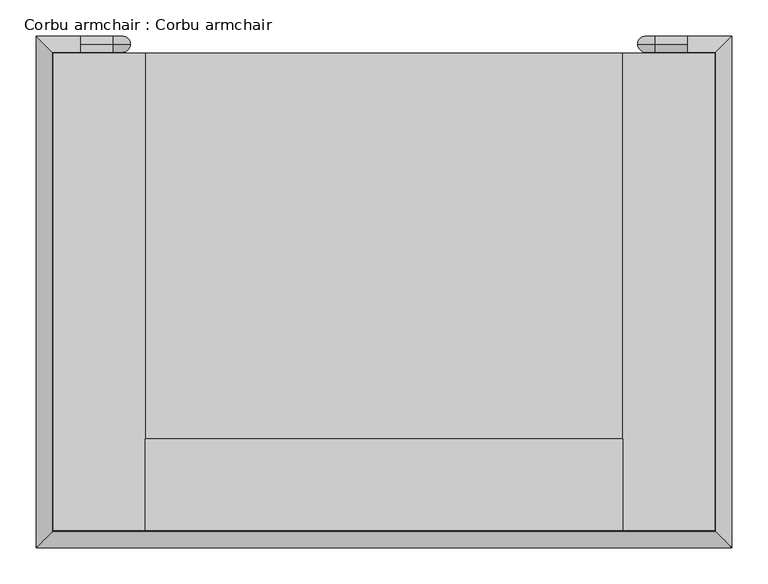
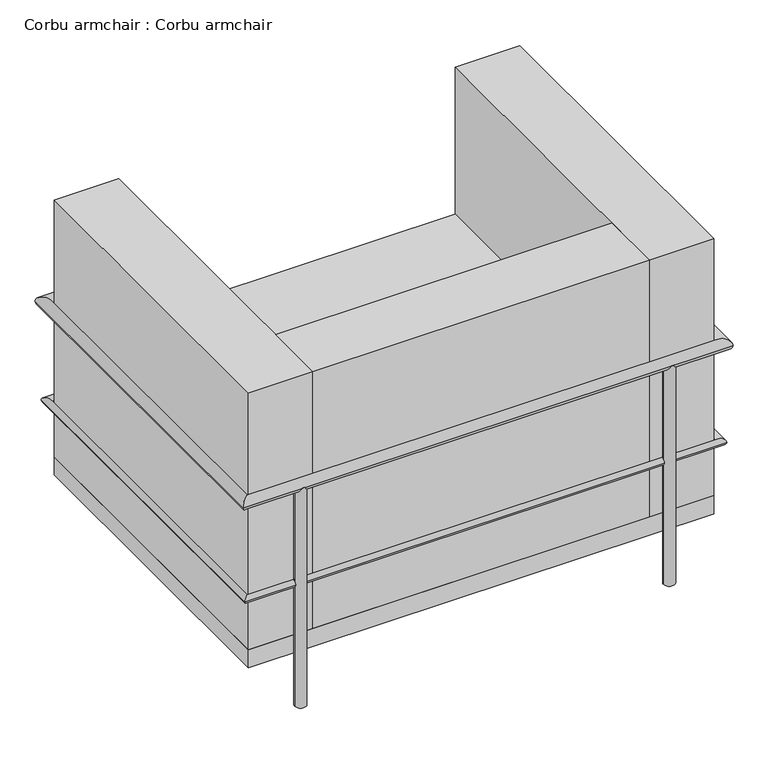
"""IFC4 building model written with IfcOpenShell, lengths in millimetres: furniture geometry, Corbu armchair : Corbu armchair."""

import ifcopenshell
import ifcopenshell.guid

model = None  # the IFC model being written
_history = None  # IfcOwnerHistory: only IFC2X3 demands one
_inside = {}  # id of a spatial element -> (the spatial element, [elements in it])
_under = {}  # id of a project, library or spatial element -> (it, [spatial elements below it])
_declared = {}  # id of a project -> (the project, [libraries it declares])
_typed = {}  # id of a type object -> (the type object, [elements of that type])
_made_of = {}  # id of a material, layer set ... -> (it, [elements and type objects made of it])


def new_model(schema):
    """Start an empty IFC model of exactly this schema.

    Asked for "IFC4X3", IfcOpenShell would pick the latest addendum, in which some entities
    have other attributes; the version numbers below select the first issue.
    IFC2X3 requires an IfcOwnerHistory on every rooted entity: one is made here for all.
    """
    global model, _history
    if schema == "IFC4X3":
        model = ifcopenshell.file(schema_version=(4, 3, 0, 0))
    else:
        model = ifcopenshell.file(schema=schema)
    _inside.clear()
    _under.clear()
    _declared.clear()
    _typed.clear()
    _made_of.clear()
    _history = None
    if model.schema == "IFC2X3":
        org = make("IfcOrganization", Name="unknown")
        user = make(
            "IfcPersonAndOrganization",
            ThePerson=make("IfcPerson", FamilyName="unknown"),
            TheOrganization=org,
        )
        app = make(
            "IfcApplication",
            ApplicationDeveloper=org,
            Version="unknown",
            ApplicationFullName="unknown",
            ApplicationIdentifier="unknown",
        )
        _history = make(
            "IfcOwnerHistory",
            OwningUser=user,
            OwningApplication=app,
            ChangeAction="ADDED",
            CreationDate=0,
        )
    return model


def make(cls, **values):
    """One entity of the class cls with the attributes given. An attribute that is None is left unset."""
    return model.create_entity(
        cls, **{name: value for name, value in values.items() if value is not None}
    )


def rooted(cls, **values):
    """An entity with a GlobalId (a new one), such as an element, a storey or a relation."""
    return make(cls, GlobalId=ifcopenshell.guid.new(), OwnerHistory=_history, **values)


def si_unit(unit_type, name, prefix=None):
    """IfcSIUnit, for example si_unit("LENGTHUNIT", "METRE", prefix="MILLI")."""
    return make("IfcSIUnit", UnitType=unit_type, Prefix=prefix, Name=name)


def assignment(units):
    """IfcUnitAssignment: the units of a project."""
    return None if units is None else make("IfcUnitAssignment", Units=units)


def point(xyz):
    """IfcCartesianPoint."""
    return None if xyz is None else make("IfcCartesianPoint", Coordinates=xyz)


def direction(xyz):
    """IfcDirection."""
    return None if xyz is None else make("IfcDirection", DirectionRatios=xyz)


def frame(location, z_axis=None, x_axis=None):
    """IfcAxis2Placement3D, a coordinate frame: its origin and axes. An axis left out is left unset."""
    return make(
        "IfcAxis2Placement3D",
        Location=point(location),
        Axis=direction(z_axis),
        RefDirection=direction(x_axis),
    )


def frame_2d(location, x_axis=None):
    """IfcAxis2Placement2D, a coordinate frame in the plane: its origin and x axis."""
    return make(
        "IfcAxis2Placement2D", Location=point(location), RefDirection=direction(x_axis)
    )


def origin():
    """The frame at (0, 0, 0) with its axes left unset."""
    return frame((0.0, 0.0, 0.0))


def origin_with_axes():
    """The frame at (0, 0, 0) with the z axis (0, 0, 1) and the x axis (1, 0, 0) written out."""
    return frame((0.0, 0.0, 0.0), z_axis=(0.0, 0.0, 1.0), x_axis=(1.0, 0.0, 0.0))


def place(relative_to, where):
    """IfcLocalPlacement: puts the frame where relative to a parent placement (None: the world)."""
    return make(
        "IfcLocalPlacement", PlacementRelTo=relative_to, RelativePlacement=where
    )


def context(
    kind, dimensions, precision=None, world=None, true_north=None, identifier=None
):
    """IfcGeometricRepresentationContext, for example the 3D "Model" context."""
    return make(
        "IfcGeometricRepresentationContext",
        ContextIdentifier=identifier,
        ContextType=kind,
        CoordinateSpaceDimension=dimensions,
        Precision=precision,
        WorldCoordinateSystem=world,
        TrueNorth=true_north,
    )


def project(units=None, contexts=None):
    """IfcProject with its units and contexts."""
    return rooted(
        "IfcProject",
        Name="project",
        RepresentationContexts=contexts,
        UnitsInContext=assignment(units),
    )


def spatial(cls, under=None, at=None, **own):
    """A site, building, storey or space (cls), placed at a placement, below another one or the project."""
    s = rooted(cls, ObjectPlacement=at, **own)
    if under is not None:
        _under.setdefault(under.id(), (under, []))[1].append(s)
    return s


def polyline(points):
    """IfcPolyline through the points."""
    return make("IfcPolyline", Points=[point(p) for p in points])


def circle_curve(where, radius):
    """IfcCircle in the frame where."""
    return make("IfcCircle", Position=where, Radius=radius)


def ellipse_curve(where, semi_axis1, semi_axis2):
    """IfcEllipse in the frame where."""
    return make(
        "IfcEllipse", Position=where, SemiAxis1=semi_axis1, SemiAxis2=semi_axis2
    )


def trimmed(basis, trim1, trim2, sense, master):
    """IfcTrimmedCurve: the piece of a basis curve between two trims."""
    return make(
        "IfcTrimmedCurve",
        BasisCurve=basis,
        Trim1=trim1,
        Trim2=trim2,
        SenseAgreement=sense,
        MasterRepresentation=master,
    )


def segment(curve, same_sense, transition):
    """IfcCompositeCurveSegment."""
    return make(
        "IfcCompositeCurveSegment",
        Transition=transition,
        SameSense=same_sense,
        ParentCurve=curve,
    )


def composite_curve(segments, self_intersect=None):
    """IfcCompositeCurve: segments joined end to end."""
    return make("IfcCompositeCurve", Segments=segments, SelfIntersect=self_intersect)


def outline(outer, holes=None, kind="AREA"):
    """IfcArbitraryClosedProfileDef: a profile drawn as a closed curve; with holes, ...WithVoids."""
    if holes is None:
        return make("IfcArbitraryClosedProfileDef", ProfileType=kind, OuterCurve=outer)
    return make(
        "IfcArbitraryProfileDefWithVoids",
        ProfileType=kind,
        OuterCurve=outer,
        InnerCurves=holes,
    )


def extrude(swept, where, along, depth):
    """IfcExtrudedAreaSolid: the profile swept, set in the frame where, extruded along a direction by depth."""
    return make(
        "IfcExtrudedAreaSolid",
        SweptArea=swept,
        Position=where,
        ExtrudedDirection=direction(along),
        Depth=depth,
    )


def shape(context_of_items, identifier, shape_type, items):
    """IfcShapeRepresentation: the items that make up one representation, for example the "Body"."""
    return make(
        "IfcShapeRepresentation",
        ContextOfItems=context_of_items,
        RepresentationIdentifier=identifier,
        RepresentationType=shape_type,
        Items=items,
    )


def source(mapping_origin, context_of_items, identifier, shape_type, items):
    """IfcRepresentationMap: a shape defined once, which mapped items show again and again."""
    return make(
        "IfcRepresentationMap",
        MappingOrigin=mapping_origin,
        MappedRepresentation=shape(context_of_items, identifier, shape_type, items),
    )


def transform(
    local_origin,
    x_axis=None,
    y_axis=None,
    z_axis=None,
    scale=None,
    scale2=None,
    scale3=None,
    uniform=True,
):
    """IfcCartesianTransformationOperator3D, or its non-uniform kind. x_axis, y_axis, z_axis: its Axis1, 2, 3."""
    if uniform:
        return make(
            "IfcCartesianTransformationOperator3D",
            Axis1=direction(x_axis),
            Axis2=direction(y_axis),
            LocalOrigin=point(local_origin),
            Scale=scale,
            Axis3=direction(z_axis),
        )
    return make(
        "IfcCartesianTransformationOperator3DnonUniform",
        Axis1=direction(x_axis),
        Axis2=direction(y_axis),
        LocalOrigin=point(local_origin),
        Scale=scale,
        Axis3=direction(z_axis),
        Scale2=scale2,
        Scale3=scale3,
    )


def mapped(mapping_source, mapping_target):
    """IfcMappedItem: shows the shape of a source again, moved by a transform."""
    return make(
        "IfcMappedItem", MappingSource=mapping_source, MappingTarget=mapping_target
    )


def made_of(thing, what):
    """Note that an element or type object is made of a material, layer set ...; save() writes the relation."""
    if what is not None:
        _made_of.setdefault(what.id(), (what, []))[1].append(thing)
    return thing


def element(
    cls,
    number,
    at=None,
    inside=None,
    cuts=None,
    type_object=None,
    material=None,
    context=None,
    identifier="Body",
    shape_type=None,
    held_by="IfcProductDefinitionShape",
    body=None,
    shapes=None,
    **own,
):
    """One element of the class cls, such as IfcWall. Its Tag is "e" and its number.

    at: its placement. inside: the storey or other place that contains it. cuts: it is an
    opening in that element (IfcRelVoidsElement). A single representation is given by context,
    identifier, shape_type and body (its items); several are given by shapes. held_by: the class
    of the entity that holds the representations. save() writes the other relations.
    """
    e = rooted(cls, Tag="e%d" % number, ObjectPlacement=at, **own)
    if body is not None:
        shapes = [shape(context, identifier, shape_type, body)]
    if shapes is not None:
        e.Representation = make(held_by, Representations=shapes)
    if inside is not None:
        _inside.setdefault(inside.id(), (inside, []))[1].append(e)
    if cuts is not None:
        rooted(
            "IfcRelVoidsElement", RelatingBuildingElement=cuts, RelatedOpeningElement=e
        )
    if type_object is not None:
        _typed.setdefault(type_object.id(), (type_object, []))[1].append(e)
    return made_of(e, material)


def aggregate(whole, parts):
    """IfcRelAggregates: a whole, such as a stair, and the parts it consists of."""
    return rooted("IfcRelAggregates", RelatingObject=whole, RelatedObjects=parts)


def save(model, path):
    """Write the relations noted so far, then the file.

    IfcRelAggregates (storeys below a building ...), IfcRelContainedInSpatialStructure (elements
    in a storey), IfcRelDefinesByType, IfcRelAssociatesMaterial and IfcRelDeclares: one each for
    every whole, place, type object, material and project.
    """
    for whole, parts in _under.values():
        aggregate(whole, parts)
    for where, things in _inside.values():
        rooted(
            "IfcRelContainedInSpatialStructure",
            RelatedElements=things,
            RelatingStructure=where,
        )
    for kind, things in _typed.values():
        rooted("IfcRelDefinesByType", RelatedObjects=things, RelatingType=kind)
    for what, things in _made_of.values():
        rooted("IfcRelAssociatesMaterial", RelatedObjects=things, RelatingMaterial=what)
    for by, libraries in _declared.values():
        rooted("IfcRelDeclares", RelatingContext=by, RelatedDefinitions=libraries)
    model.write(path)


def plane_surface(at):
    """IfcPlane: the flat surface through the origin of the frame at, square to its z axis."""
    return make("IfcPlane", Position=at)


def cylinder_surface(at, radius):
    """IfcCylindricalSurface: all points at the distance radius from the z axis of the frame at."""
    return make("IfcCylindricalSurface", Position=at, Radius=radius)


def revolved_surface(curve, axis_point, axis_direction):
    """IfcSurfaceOfRevolution: the curve turned about the line through axis_point along axis_direction."""
    return make(
        "IfcSurfaceOfRevolution",
        SweptCurve=make("IfcArbitraryOpenProfileDef", ProfileType="CURVE", Curve=curve),
        AxisPosition=make("IfcAxis1Placement", Location=point(axis_point), Axis=direction(axis_direction)),
    )


def advanced_brep(points, edges, surfaces, faces):
    """IfcAdvancedBrep: a solid bounded by faces that lie on surfaces and meet in shared edges.

    An edge is (start, end): straight between two places in points (the first is 0);
    or (start, end, curve); or (start, end, curve, False) where it runs against its curve.
    A face is (place in surfaces, loops), or (place, loops, False) where it looks against
    its surface's normal. A loop lists edges by number (the first is 1), with a minus sign
    where the edge is run from its end to its start. The first loop is the outer one.
    """
    corners = [point(p) for p in points]
    vertices = [make("IfcVertexPoint", VertexGeometry=c) for c in corners]
    made = []
    for start, end, *more in edges:
        made.append(
            make(
                "IfcEdgeCurve",
                EdgeStart=vertices[start],
                EdgeEnd=vertices[end],
                EdgeGeometry=more[0] if more else make("IfcPolyline", Points=[corners[start], corners[end]]),
                SameSense=more[1] if len(more) > 1 else True,
            )
        )
    hull = []
    for where, loops, *sense in faces:
        bounds = []
        for j, loop in enumerate(loops):
            ring = [make("IfcOrientedEdge", EdgeElement=made[abs(k) - 1], Orientation=k > 0) for k in loop]
            bounds.append(
                make(
                    "IfcFaceOuterBound" if j == 0 else "IfcFaceBound",
                    Bound=make("IfcEdgeLoop", EdgeList=ring),
                    Orientation=True,
                )
            )
        hull.append(make("IfcAdvancedFace", Bounds=bounds, FaceSurface=surfaces[where], SameSense=sense[0] if sense else True))
    return make("IfcAdvancedBrep", Outer=make("IfcClosedShell", CfsFaces=hull))


def corbu_armchair_corbu_armchair_8b21c121(model_context):
    return source(origin(), model_context, "Body", "SolidModel", [
        extrude(outline(composite_curve([segment(trimmed(circle_curve(frame_2d((211.4237705, -809.6770492)), 11.1125), [point((200.3112705, -809.6770492))], [point((222.5362705, -809.6770492))], False, "CARTESIAN"), True, "CONTINUOUS"), segment(trimmed(circle_curve(frame_2d((211.4237705, -809.6770492)), 11.1125), [point((222.5362705, -809.6770492))], [point((200.3112705, -809.6770492))], False, "CARTESIAN"), True, "CONTINUOUS")], self_intersect=False)), origin_with_axes(), (0.0, 0.0, 1.0), 457.2),
        extrude(outline(composite_curve([segment(trimmed(circle_curve(frame_2d((935.3237705, -809.6770492)), 11.1125), [point((946.4362705, -809.6770492))], [point((924.2112705, -809.6770492))], False, "CARTESIAN"), True, "CONTINUOUS"), segment(trimmed(circle_curve(frame_2d((935.3237705, -809.6770492)), 11.1125), [point((924.2112705, -809.6770492))], [point((946.4362705, -809.6770492))], False, "CARTESIAN"), True, "CONTINUOUS")], self_intersect=False)), origin_with_axes(), (0.0, 0.0, 1.0), 457.2),
        advanced_brep(
        [(946.4362705, -123.8770492, 0.0), (924.2112705, -123.8770492, 0.0), (924.2112705, -123.8770492, 444.5), (946.4362705, -123.8770492, 444.5), (948.0237705, -123.8770492, 468.3125), (948.0237705, -123.8770492, 446.0875), (992.4737705, -123.8770492, 446.0875), (992.4737705, -123.8770492, 468.3125)],
        [
            (0, 1, circle_curve(frame((935.3237705, -123.8770492, 0.0), z_axis=(0.0, 0.0, -1.0), x_axis=(-1.0, 0.0, 0.0)), 11.1125)),
            (1, 0, circle_curve(frame((935.3237705, -123.8770492, 0.0), z_axis=(0.0, 0.0, -1.0), x_axis=(-1.0, 0.0, 0.0)), 11.1125)),
            (1, 2),
            (2, 3, circle_curve(frame((935.3237705, -123.8770492, 444.5), z_axis=(0.0, 0.0, -1.0), x_axis=(-1.0, 0.0, 0.0)), 11.1125)),
            (3, 0),
            (3, 2, circle_curve(frame((935.3237705, -123.8770492, 444.5), z_axis=(0.0, 0.0, -1.0), x_axis=(-1.0, 0.0, 0.0)), 11.1125)),
            (4, 5, circle_curve(frame((948.0237705, -123.8770492, 457.2), z_axis=(-1.0, 0.0, 0.0), x_axis=(0.0, 0.0, 1.0)), 11.1125)),
            (5, 3, circle_curve(frame((948.0237705, -123.8770492, 444.5), z_axis=(0.0, -1.0, 0.0), x_axis=(-1.0, 0.0, 0.0)), 1.5875)),
            (2, 4, circle_curve(frame((948.0237705, -123.8770492, 444.5), z_axis=(0.0, 1.0, 0.0), x_axis=(-1.0, 0.0, 0.0)), 23.8125)),
            (5, 4, circle_curve(frame((948.0237705, -123.8770492, 457.2), z_axis=(-1.0, 0.0, 0.0), x_axis=(0.0, 0.0, 1.0)), 11.1125)),
            (6, 7, circle_curve(frame((992.4737705, -123.8770492, 457.2), z_axis=(1.0, 0.0, 0.0), x_axis=(0.0, 0.0, 1.0)), 11.1125)),
            (7, 6, circle_curve(frame((992.4737705, -123.8770492, 457.2), z_axis=(1.0, 0.0, 0.0), x_axis=(0.0, 0.0, 1.0)), 11.1125)),
            (4, 7),
            (6, 5),
        ],
        [
            plane_surface(frame((935.3237705, -112.7645492, 0.0), z_axis=(0.0, 0.0, -1.0), x_axis=(1.0, 0.0, 0.0))),
            cylinder_surface(frame((935.3237705, -123.8770492, 0.0), z_axis=(0.0, 0.0, -1.0), x_axis=(-1.0, 0.0, 0.0)), 11.1125),
            revolved_surface(trimmed(ellipse_curve(frame((935.3237705, -123.8770492, 444.5), z_axis=(0.0, 0.0, 1.0), x_axis=(-1.0, 0.0, 0.0)), 11.1125, 11.1125), [point((946.4362705, -123.8770492, 444.5))], [point((924.2112705, -123.8770492, 444.5))], True, "CARTESIAN"), (948.0237705, -123.8770492, 444.5), (0.0, -1.0, 0.0)),
            revolved_surface(trimmed(ellipse_curve(frame((935.3237705, -123.8770492, 444.5), z_axis=(0.0, 0.0, 1.0), x_axis=(-1.0, 0.0, 0.0)), 11.1125, 11.1125), [point((924.2112705, -123.8770492, 444.5))], [point((946.4362705, -123.8770492, 444.5))], True, "CARTESIAN"), (948.0237705, -123.8770492, 444.5), (0.0, -1.0, 0.0)),
            plane_surface(frame((992.4737705, -123.8770492, 446.0875), z_axis=(1.0, 0.0, 0.0), x_axis=(0.0, -1.0, 0.0))),
            cylinder_surface(frame((948.0237705, -123.8770492, 457.2), z_axis=(-1.0, 0.0, 0.0), x_axis=(0.0, 0.0, 1.0)), 11.1125),
        ],
        [
            (0, [[1, 2]]),
            (1, [[3, 4, 5, -2]]),
            (1, [[-5, 6, -3, -1]]),
            (2, [[7, 8, -4, 9]]),
            (3, [[10, -9, -6, -8]]),
            (4, [[11, 12]]),
            (5, [[13, -11, 14, -7]]),
            (5, [[-14, -12, -13, -10]]),
        ],
    ),
        advanced_brep(
        [(222.5362705, -123.8770492, 0.0), (200.3112705, -123.8770492, 0.0), (200.3112705, -123.8770492, 444.5), (222.5362705, -123.8770492, 444.5), (198.7237705, -123.8770492, 446.0875), (198.7237705, -123.8770492, 468.3125), (154.2737705, -123.8770492, 468.3125), (154.2737705, -123.8770492, 446.0875)],
        [
            (0, 1, circle_curve(frame((211.4237705, -123.8770492, 0.0), z_axis=(0.0, 0.0, -1.0), x_axis=(-1.0, 0.0, 0.0)), 11.1125)),
            (1, 0, circle_curve(frame((211.4237705, -123.8770492, 0.0), z_axis=(0.0, 0.0, -1.0), x_axis=(-1.0, 0.0, 0.0)), 11.1125)),
            (1, 2),
            (2, 3, circle_curve(frame((211.4237705, -123.8770492, 444.5), z_axis=(0.0, 0.0, -1.0), x_axis=(-1.0, 0.0, 0.0)), 11.1125)),
            (3, 0),
            (3, 2, circle_curve(frame((211.4237705, -123.8770492, 444.5), z_axis=(0.0, 0.0, -1.0), x_axis=(-1.0, 0.0, 0.0)), 11.1125)),
            (4, 5, circle_curve(frame((198.7237705, -123.8770492, 457.2), z_axis=(1.0, 0.0, 0.0), x_axis=(0.0, 0.0, -1.0)), 11.1125)),
            (5, 3, circle_curve(frame((198.7237705, -123.8770492, 444.5), z_axis=(0.0, 1.0, 0.0), x_axis=(1.0, 0.0, 0.0)), 23.8125)),
            (2, 4, circle_curve(frame((198.7237705, -123.8770492, 444.5), z_axis=(0.0, -1.0, 0.0), x_axis=(1.0, 0.0, 0.0)), 1.5875)),
            (5, 4, circle_curve(frame((198.7237705, -123.8770492, 457.2), z_axis=(1.0, 0.0, 0.0), x_axis=(0.0, 0.0, -1.0)), 11.1125)),
            (6, 7, circle_curve(frame((154.2737705, -123.8770492, 457.2), z_axis=(-1.0, 0.0, 0.0), x_axis=(0.0, 0.0, -1.0)), 11.1125)),
            (7, 6, circle_curve(frame((154.2737705, -123.8770492, 457.2), z_axis=(-1.0, 0.0, 0.0), x_axis=(0.0, 0.0, -1.0)), 11.1125)),
            (4, 7),
            (6, 5),
        ],
        [
            plane_surface(frame((211.4237705, -112.7645492, 0.0), z_axis=(0.0, 0.0, -1.0), x_axis=(1.0, 0.0, 0.0))),
            cylinder_surface(frame((211.4237705, -123.8770492, 0.0), z_axis=(0.0, 0.0, -1.0), x_axis=(-1.0, 0.0, 0.0)), 11.1125),
            revolved_surface(trimmed(ellipse_curve(frame((211.4237705, -123.8770492, 444.5), z_axis=(0.0, 0.0, 1.0), x_axis=(-1.0, 0.0, 0.0)), 11.1125, 11.1125), [point((222.5362705, -123.8770492, 444.5))], [point((200.3112705, -123.8770492, 444.5))], True, "CARTESIAN"), (198.7237705, -123.8770492, 444.5), (0.0, 1.0, 0.0)),
            revolved_surface(trimmed(ellipse_curve(frame((211.4237705, -123.8770492, 444.5), z_axis=(0.0, 0.0, 1.0), x_axis=(-1.0, 0.0, 0.0)), 11.1125, 11.1125), [point((200.3112705, -123.8770492, 444.5))], [point((222.5362705, -123.8770492, 444.5))], True, "CARTESIAN"), (198.7237705, -123.8770492, 444.5), (0.0, 1.0, 0.0)),
            plane_surface(frame((154.2737705, -123.8770492, 446.0875), z_axis=(-1.0, 0.0, 0.0), x_axis=(0.0, 1.0, 0.0))),
            cylinder_surface(frame((198.7237705, -123.8770492, 457.2), z_axis=(1.0, 0.0, 0.0), x_axis=(0.0, 0.0, -1.0)), 11.1125),
        ],
        [
            (0, [[1, 2]]),
            (1, [[3, 4, 5, -2]]),
            (1, [[-5, 6, -3, -1]]),
            (2, [[7, 8, -4, 9]]),
            (3, [[10, -9, -6, -8]]),
            (4, [[11, 12]]),
            (5, [[13, -11, 14, -7]]),
            (5, [[-14, -12, -13, -10]]),
        ],
    ),
        advanced_brep(
        [(201.8987705, -133.4020492, 254.0), (201.8987705, -120.7020492, 254.0), (100.2987705, -120.7020492, 254.0), (112.9987705, -133.4020492, 254.0), (100.2987705, -812.8520492, 254.0), (112.9987705, -800.1520492, 254.0), (1046.4487705, -812.8520492, 254.0), (1033.7487705, -800.1520492, 254.0), (1046.4487705, -120.7020492, 254.0), (1033.7487705, -133.4020492, 254.0), (944.8487705, -133.4020492, 254.0), (944.8487705, -120.7020492, 254.0)],
        [
            (0, 1, circle_curve(frame((201.8987705, -127.0520492, 254.0), z_axis=(1.0, 0.0, 0.0), x_axis=(0.0, 1.0, 0.0)), 6.35)),
            (1, 0, circle_curve(frame((201.8987705, -127.0520492, 254.0), z_axis=(1.0, 0.0, 0.0), x_axis=(0.0, 1.0, 0.0)), 6.35)),
            (1, 2),
            (2, 3, ellipse_curve(frame((106.6487705, -127.0520492, 254.0), z_axis=(0.7071067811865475, 0.7071067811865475, 0.0), x_axis=(0.7071067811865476, -0.7071067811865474, 0.0)), 8.9802561, 6.35)),
            (3, 0),
            (3, 2, ellipse_curve(frame((106.6487705, -127.0520492, 254.0), z_axis=(0.7071067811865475, 0.7071067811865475, 0.0), x_axis=(0.7071067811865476, -0.7071067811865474, 0.0)), 8.9802561, 6.35)),
            (2, 4),
            (4, 5, ellipse_curve(frame((106.6487705, -806.5020492, 254.0), z_axis=(-0.7071067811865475, 0.7071067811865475, 0.0), x_axis=(0.7071067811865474, 0.7071067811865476, 0.0)), 8.9802561, 6.35)),
            (5, 3),
            (5, 4, ellipse_curve(frame((106.6487705, -806.5020492, 254.0), z_axis=(-0.7071067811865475, 0.7071067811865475, 0.0), x_axis=(0.7071067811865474, 0.7071067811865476, 0.0)), 8.9802561, 6.35)),
            (4, 6),
            (6, 7, ellipse_curve(frame((1040.0987705, -806.5020492, 254.0), z_axis=(-0.7071067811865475, -0.7071067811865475, 0.0), x_axis=(-0.7071067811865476, 0.7071067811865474, 0.0)), 8.9802561, 6.35)),
            (7, 5),
            (7, 6, ellipse_curve(frame((1040.0987705, -806.5020492, 254.0), z_axis=(-0.7071067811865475, -0.7071067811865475, 0.0), x_axis=(-0.7071067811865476, 0.7071067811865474, 0.0)), 8.9802561, 6.35)),
            (6, 8),
            (8, 9, ellipse_curve(frame((1040.0987705, -127.0520492, 254.0), z_axis=(0.7071067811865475, -0.7071067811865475, 0.0), x_axis=(-0.7071067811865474, -0.7071067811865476, 0.0)), 8.9802561, 6.35)),
            (9, 7),
            (9, 8, ellipse_curve(frame((1040.0987705, -127.0520492, 254.0), z_axis=(0.7071067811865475, -0.7071067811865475, 0.0), x_axis=(-0.7071067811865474, -0.7071067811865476, 0.0)), 8.9802561, 6.35)),
            (10, 11, circle_curve(frame((944.8487705, -127.0520492, 254.0), z_axis=(-1.0, 0.0, 0.0), x_axis=(0.0, 1.0, 0.0)), 6.35)),
            (11, 10, circle_curve(frame((944.8487705, -127.0520492, 254.0), z_axis=(-1.0, 0.0, 0.0), x_axis=(0.0, 1.0, 0.0)), 6.35)),
            (8, 11),
            (10, 9),
        ],
        [
            plane_surface(frame((201.8987705, -127.0520492, -259.5186838), z_axis=(1.0, 0.0, 0.0), x_axis=(0.0, 1.0, 0.0))),
            cylinder_surface(frame((201.8987705, -127.0520492, 254.0), z_axis=(1.0, 0.0, 0.0), x_axis=(0.0, 1.0, 0.0)), 6.35),
            cylinder_surface(frame((106.6487705, -127.0520492, 254.0), z_axis=(0.0, 1.0, 0.0), x_axis=(-1.0, 0.0, 0.0)), 6.35),
            cylinder_surface(frame((106.6487705, -806.5020492, 254.0), z_axis=(-1.0, 0.0, 0.0), x_axis=(0.0, -1.0, 0.0)), 6.35),
            cylinder_surface(frame((1040.0987705, -806.5020492, 254.0), z_axis=(0.0, -1.0, 0.0), x_axis=(1.0, 0.0, 0.0)), 6.35),
            plane_surface(frame((944.8487705, -127.0520492, -259.5186838), z_axis=(-1.0, 0.0, 0.0), x_axis=(0.0, 1.0, 0.0))),
            cylinder_surface(frame((1040.0987705, -127.0520492, 254.0), z_axis=(1.0, 0.0, 0.0), x_axis=(0.0, 1.0, 0.0)), 6.35),
        ],
        [
            (0, [[1, 2]]),
            (1, [[3, 4, 5, -2]]),
            (1, [[-5, 6, -3, -1]]),
            (2, [[7, 8, 9, -4]]),
            (2, [[-9, 10, -7, -6]]),
            (3, [[11, 12, 13, -8]]),
            (3, [[-13, 14, -11, -10]]),
            (4, [[15, 16, 17, -12]]),
            (4, [[-17, 18, -15, -14]]),
            (5, [[19, 20]]),
            (6, [[21, -19, 22, -16]]),
            (6, [[-22, -20, -21, -18]]),
        ],
    ),
        advanced_brep(
        [(154.2737705, -134.9895492, 457.2), (154.2737705, -112.7645492, 457.2), (92.3612705, -112.7645492, 457.2), (114.5862705, -134.9895492, 457.2), (92.3612705, -820.7895492, 457.2), (114.5862705, -798.5645492, 457.2), (1054.3862705, -820.7895492, 457.2), (1032.1612705, -798.5645492, 457.2), (1054.3862705, -112.7645492, 457.2), (1032.1612705, -134.9895492, 457.2), (992.4737705, -134.9895492, 457.2), (992.4737705, -112.7645492, 457.2)],
        [
            (0, 1, circle_curve(frame((154.2737705, -123.8770492, 457.2), z_axis=(1.0, 0.0, 0.0), x_axis=(0.0, 1.0, 0.0)), 11.1125)),
            (1, 0, circle_curve(frame((154.2737705, -123.8770492, 457.2), z_axis=(1.0, 0.0, 0.0), x_axis=(0.0, 1.0, 0.0)), 11.1125)),
            (1, 2),
            (2, 3, ellipse_curve(frame((103.4737705, -123.8770492, 457.2), z_axis=(0.7071067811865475, 0.7071067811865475, 0.0), x_axis=(0.7071067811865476, -0.7071067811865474, 0.0)), 15.7154482, 11.1125)),
            (3, 0),
            (3, 2, ellipse_curve(frame((103.4737705, -123.8770492, 457.2), z_axis=(0.7071067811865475, 0.7071067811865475, 0.0), x_axis=(0.7071067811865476, -0.7071067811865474, 0.0)), 15.7154482, 11.1125)),
            (2, 4),
            (4, 5, ellipse_curve(frame((103.4737705, -809.6770492, 457.2), z_axis=(-0.7071067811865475, 0.7071067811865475, 0.0), x_axis=(0.7071067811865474, 0.7071067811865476, 0.0)), 15.7154482, 11.1125)),
            (5, 3),
            (5, 4, ellipse_curve(frame((103.4737705, -809.6770492, 457.2), z_axis=(-0.7071067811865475, 0.7071067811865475, 0.0), x_axis=(0.7071067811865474, 0.7071067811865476, 0.0)), 15.7154482, 11.1125)),
            (4, 6),
            (6, 7, ellipse_curve(frame((1043.2737705, -809.6770492, 457.2), z_axis=(-0.7071067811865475, -0.7071067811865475, 0.0), x_axis=(-0.7071067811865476, 0.7071067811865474, 0.0)), 15.7154482, 11.1125)),
            (7, 5),
            (7, 6, ellipse_curve(frame((1043.2737705, -809.6770492, 457.2), z_axis=(-0.7071067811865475, -0.7071067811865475, 0.0), x_axis=(-0.7071067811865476, 0.7071067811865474, 0.0)), 15.7154482, 11.1125)),
            (6, 8),
            (8, 9, ellipse_curve(frame((1043.2737705, -123.8770492, 457.2), z_axis=(0.7071067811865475, -0.7071067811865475, 0.0), x_axis=(-0.7071067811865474, -0.7071067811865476, 0.0)), 15.7154482, 11.1125)),
            (9, 7),
            (9, 8, ellipse_curve(frame((1043.2737705, -123.8770492, 457.2), z_axis=(0.7071067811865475, -0.7071067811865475, 0.0), x_axis=(-0.7071067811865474, -0.7071067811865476, 0.0)), 15.7154482, 11.1125)),
            (10, 11, circle_curve(frame((992.4737705, -123.8770492, 457.2), z_axis=(-1.0, 0.0, 0.0), x_axis=(0.0, 1.0, 0.0)), 11.1125)),
            (11, 10, circle_curve(frame((992.4737705, -123.8770492, 457.2), z_axis=(-1.0, 0.0, 0.0), x_axis=(0.0, 1.0, 0.0)), 11.1125)),
            (8, 11),
            (10, 9),
        ],
        [
            plane_surface(frame((154.2737705, -123.8770492, -466.8567721), z_axis=(1.0, 0.0, 0.0), x_axis=(0.0, 1.0, 0.0))),
            cylinder_surface(frame((154.2737705, -123.8770492, 457.2), z_axis=(1.0, 0.0, 0.0), x_axis=(0.0, 1.0, 0.0)), 11.1125),
            cylinder_surface(frame((103.4737705, -123.8770492, 457.2), z_axis=(0.0, 1.0, 0.0), x_axis=(-1.0, 0.0, 0.0)), 11.1125),
            cylinder_surface(frame((103.4737705, -809.6770492, 457.2), z_axis=(-1.0, 0.0, 0.0), x_axis=(0.0, -1.0, 0.0)), 11.1125),
            cylinder_surface(frame((1043.2737705, -809.6770492, 457.2), z_axis=(0.0, -1.0, 0.0), x_axis=(1.0, 0.0, 0.0)), 11.1125),
            plane_surface(frame((992.4737705, -123.8770492, -466.8567721), z_axis=(-1.0, 0.0, 0.0), x_axis=(0.0, 1.0, 0.0))),
            cylinder_surface(frame((1043.2737705, -123.8770492, 457.2), z_axis=(1.0, 0.0, 0.0), x_axis=(0.0, 1.0, 0.0)), 11.1125),
        ],
        [
            (0, [[1, 2]]),
            (1, [[3, 4, 5, -2]]),
            (1, [[-5, 6, -3, -1]]),
            (2, [[7, 8, 9, -4]]),
            (2, [[-9, 10, -7, -6]]),
            (3, [[11, 12, 13, -8]]),
            (3, [[-13, 14, -11, -10]]),
            (4, [[15, 16, 17, -12]]),
            (4, [[-17, 18, -15, -14]]),
            (5, [[19, 20]]),
            (6, [[21, -19, 22, -16]]),
            (6, [[-22, -20, -21, -18]]),
        ],
    ),
        extrude(outline(polyline([(903.5737705, -796.9770492), (243.1737705, -796.9770492), (243.1737705, -669.9770492), (903.5737705, -669.9770492), (903.5737705, -796.9770492)])), frame((0.0, 0.0, 139.7), z_axis=(0.0, 0.0, 1.0), x_axis=(1.0, 0.0, 0.0)), (0.0, 0.0, 1.0), 533.4),
        extrude(outline(polyline([(903.5737705, -669.9770492), (243.1737705, -669.9770492), (243.1737705, -136.5770492), (903.5737705, -136.5770492), (903.5737705, -669.9770492)])), frame((0.0, 0.0, 139.7), z_axis=(0.0, 0.0, 1.0), x_axis=(1.0, 0.0, 0.0)), (0.0, 0.0, 1.0), 228.6),
        extrude(outline(polyline([(243.1737705, -796.9770492), (116.1737705, -796.9770492), (116.1737705, -136.5770492), (243.1737705, -136.5770492), (243.1737705, -796.9770492)])), frame((0.0, 0.0, 139.7), z_axis=(0.0, 0.0, 1.0), x_axis=(1.0, 0.0, 0.0)), (0.0, 0.0, 1.0), 533.4),
        extrude(outline(polyline([(1030.5737705, -796.9770492), (903.5737705, -796.9770492), (903.5737705, -136.5770492), (1030.5737705, -136.5770492), (1030.5737705, -796.9770492)])), frame((0.0, 0.0, 139.7), z_axis=(0.0, 0.0, 1.0), x_axis=(1.0, 0.0, 0.0)), (0.0, 0.0, 1.0), 533.4),
        extrude(outline(polyline([(1030.5737705, -796.9770492), (116.1737705, -796.9770492), (116.1737705, -136.5770492), (1030.5737705, -136.5770492), (1030.5737705, -796.9770492)])), frame((0.0, 0.0, 101.6), z_axis=(0.0, 0.0, 1.0), x_axis=(1.0, 0.0, 0.0)), (0.0, 0.0, 1.0), 38.1),
    ])


if __name__ == "__main__":
    model = new_model("IFC4")
    model_context = context("Model", 3, world=origin())
    ifc_project = project(units=[si_unit("LENGTHUNIT", "METRE", prefix="MILLI")], contexts=[model_context])
    site = spatial("IfcSite", under=ifc_project)
    building = spatial("IfcBuilding", under=site)
    placement = place(None, origin())
    corbu_armchair_corbu_armchair_shape = corbu_armchair_corbu_armchair_8b21c121(model_context)
    element("IfcFurniture", 1, ObjectType="Corbu armchair : Corbu armchair", at=placement, inside=building, context=model_context, shape_type="MappedRepresentation", body=[
        mapped(corbu_armchair_corbu_armchair_shape, transform((0.0, 0.0, 0.0), x_axis=(1.0, 0.0, 0.0), y_axis=(0.0, 1.0, 0.0), z_axis=(0.0, 0.0, 1.0))),
    ])
    save(model, "model.ifc")
